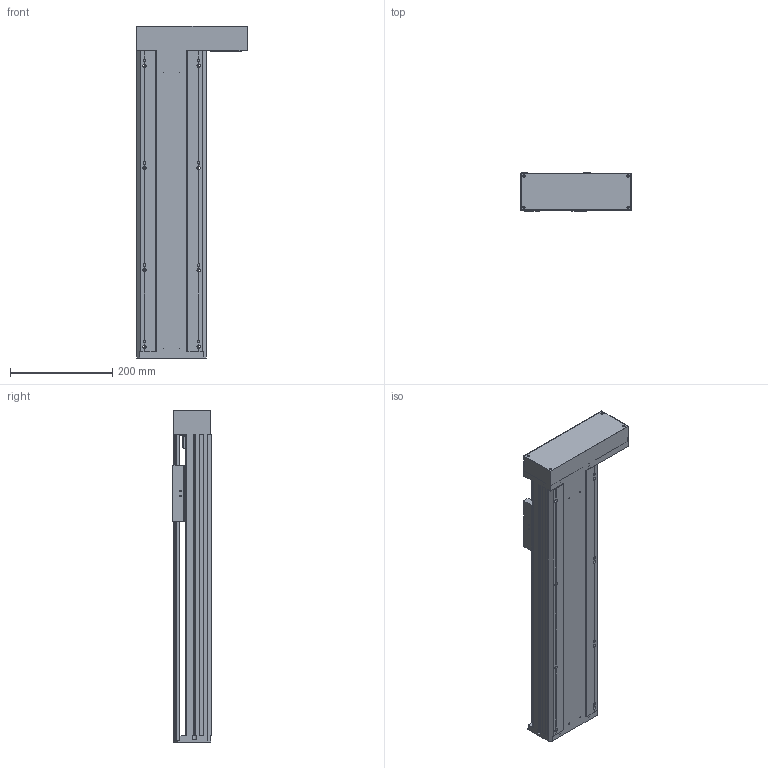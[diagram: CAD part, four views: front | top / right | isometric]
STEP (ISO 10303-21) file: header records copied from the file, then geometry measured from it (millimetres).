
FILE_DESCRIPTION(/* description */ (''),/* implementation_level */ '2;1');
FILE_NAME(/* name */ 'TKA136-FR-400_asm1_stp.stp',/* time_stamp */ '2016-09-08T14:51:31+08:00',/* author */ (''),/* organization */ (''),/* preprocessor_version */ 'ST-DEVELOPER v15',/* originating_system */ 'SIEMENS PLM Software NX 8.5',/* authorisation */ '');
FILE_SCHEMA (('AUTOMOTIVE_DESIGN { 1 0 10303 214 3 1 1 1 }'));
Length unit declared in the file: millimetre
Products named in the file (3): 100-02; 100-01; TKA136-FR-400_asm1_stp
Assembly tree (2 placements, depth 2):
  TKA136-FR-400_asm1_stp
    100-01
    100-02
Bounding box: 216 x 75 x 650 mm (x, y, z)
Volume: 2182372.4 mm3; surface area: 851155.4 mm2
Topology: 2 solids, 12 shells, 865 faces, 2377 edges, 1542 vertices
Faces by surface type: plane 413, cylinder 399, cone 53
Full cylindrical faces by diameter (mm): 2.5 x4, 3 x2, 3.3 x15, 4 x4, 4.2 x14, 4.5 x26, 5 x12, 5.5 x26, 6.6 x12, 8 x20, 10 x9, 10.5 x8, 11 x4, 11.6 x1, 12 x9, 15 x3, 16 x5, 17 x1, 24 x5, 26 x1, 28 x1, 46 x2, 50 x1
Entity records: 28423 total; most frequent: CARTESIAN_POINT 7332, DIRECTION 4397, ORIENTED_EDGE 4062, EDGE_CURVE 2031, AXIS2_PLACEMENT_3D 1673, VERTEX_POINT 1459, EDGE_LOOP 1271, LINE 1051
